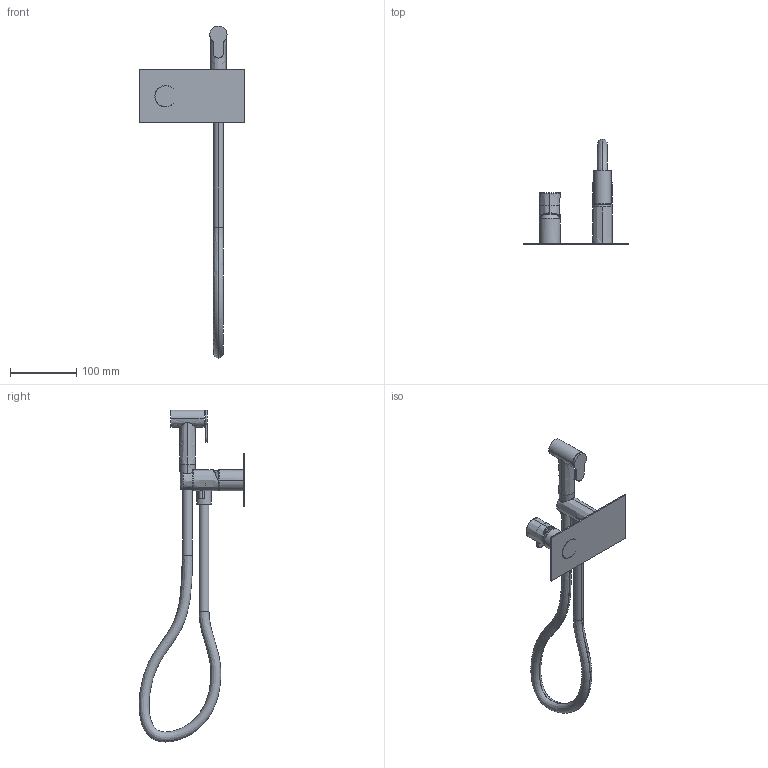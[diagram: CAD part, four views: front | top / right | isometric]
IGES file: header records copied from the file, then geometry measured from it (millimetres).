
Start section:  PTC IGES file: 69501.igs
Global section: file name: 69501.igs; native system: Creo Parametric by PTC Inc.; preprocessor: 2022014; author: carloff; organization: Unknown; date: 20230921.111637; units: millimetre
Bounding box: 160 x 160.35 x 502.68 mm (x, y, z)
Surface area: 101925.2 mm2 (no closed solid volume)
Topology: 0 solids, 0 shells, 144 faces, 698 edges, 698 vertices
Faces by surface type: revolution 91, bspline 53
